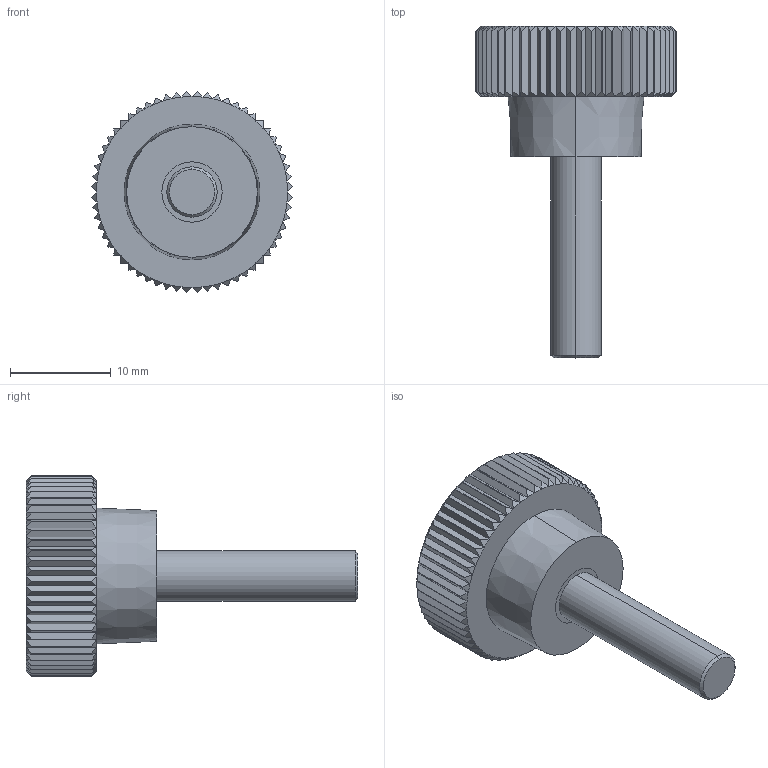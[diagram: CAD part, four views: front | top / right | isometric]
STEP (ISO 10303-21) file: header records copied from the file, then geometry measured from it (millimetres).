
FILE_DESCRIPTION (( 'STEP AP203' ), '1' );
FILE_NAME ('wn4662_20-m5x20.step', '2007-02-15T10:22:01', ( 'Magnus Fahlstrom' ), ( '' ), 'SwSTEP 2.0', 'SolidWorks 2007', '' );
FILE_SCHEMA (( 'CONFIG_CONTROL_DESIGN' ));
Length unit declared in the file: millimetre
Products named in the file (1): wn4662_20-m5x20
Bounding box: 19.98 x 33 x 19.98 mm (x, y, z)
Volume: 3243.6 mm3; surface area: 2020.2 mm2
Topology: 3 solids, 3 shells, 321 faces, 694 edges, 382 vertices
Faces by surface type: plane 129, cone 126, cylinder 66
Entity records: 8787 total; most frequent: CARTESIAN_POINT 2118, ORIENTED_EDGE 1388, DIRECTION 1360, EDGE_CURVE 694, AXIS2_PLACEMENT_3D 584, VERTEX_POINT 382, EDGE_LOOP 324, ADVANCED_FACE 321
